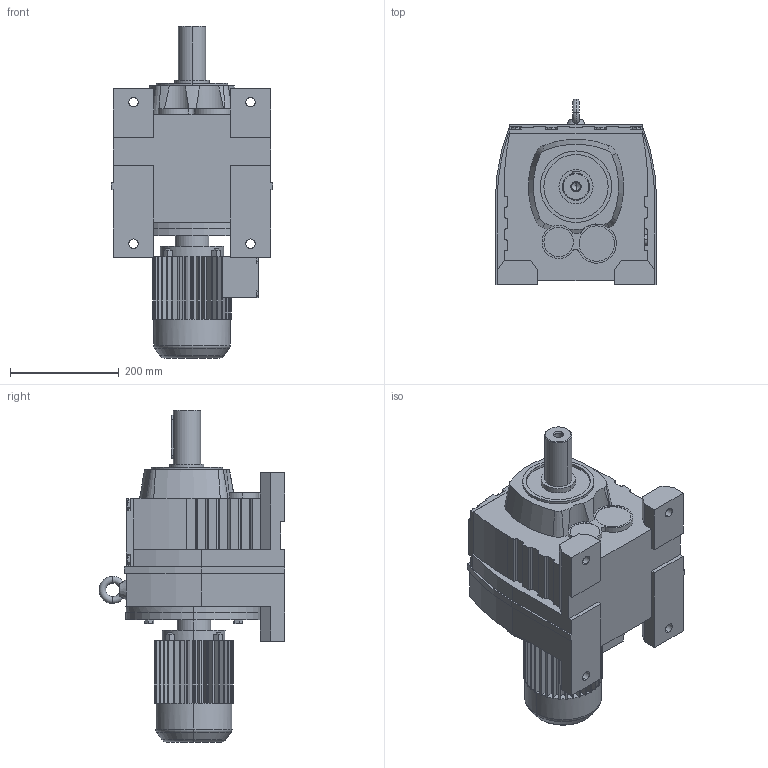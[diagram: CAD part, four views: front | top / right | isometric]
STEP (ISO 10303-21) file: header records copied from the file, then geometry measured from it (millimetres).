
FILE_DESCRIPTION(('Open CASCADE Model'),'2;1');
FILE_NAME('Open CASCADE Shape Model','2022-01-14T16:04:33',('Author'),( 'Open CASCADE'),'Open CASCADE STEP processor 6.3','Open CASCADE 6.3' ,'Unknown');
FILE_SCHEMA(('AUTOMOTIVE_DESIGN_CC2 { 1 2 10303 214 -1 1 5 4 }'));
Length unit declared in the file: millimetre
Products named in the file (3): 1_R87DT80; R37‵167_R87.step; 萇儂_250-DT80-238-302-145-122.step
Assembly tree (2 placements, depth 2):
  1_R87DT80
    R37‵167_R87.step
    萇儂_250-DT80-238-302-145-122.step
Bounding box: 297 x 341.5 x 610 mm (x, y, z)
Volume: 22004132.3 mm3; surface area: 865810.4 mm2
Topology: 2 solids, 2 shells, 731 faces, 1942 edges, 1255 vertices
Faces by surface type: plane 531, cylinder 170, cone 20, torus 10
Entity records: 50673 total; most frequent: CARTESIAN_POINT 13406, DIRECTION 6543, ORIENTED_EDGE 3880, PCURVE 3880, DEFINITIONAL_REPRESENTATION 3880, LINE 3753, VECTOR 3753, EDGE_CURVE 1940
